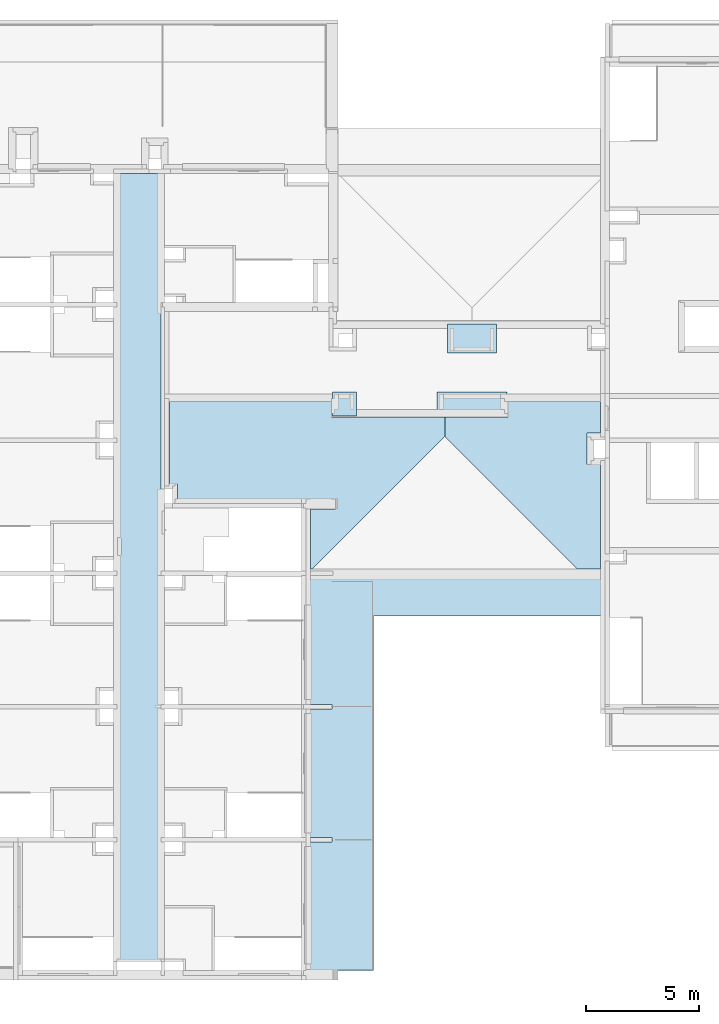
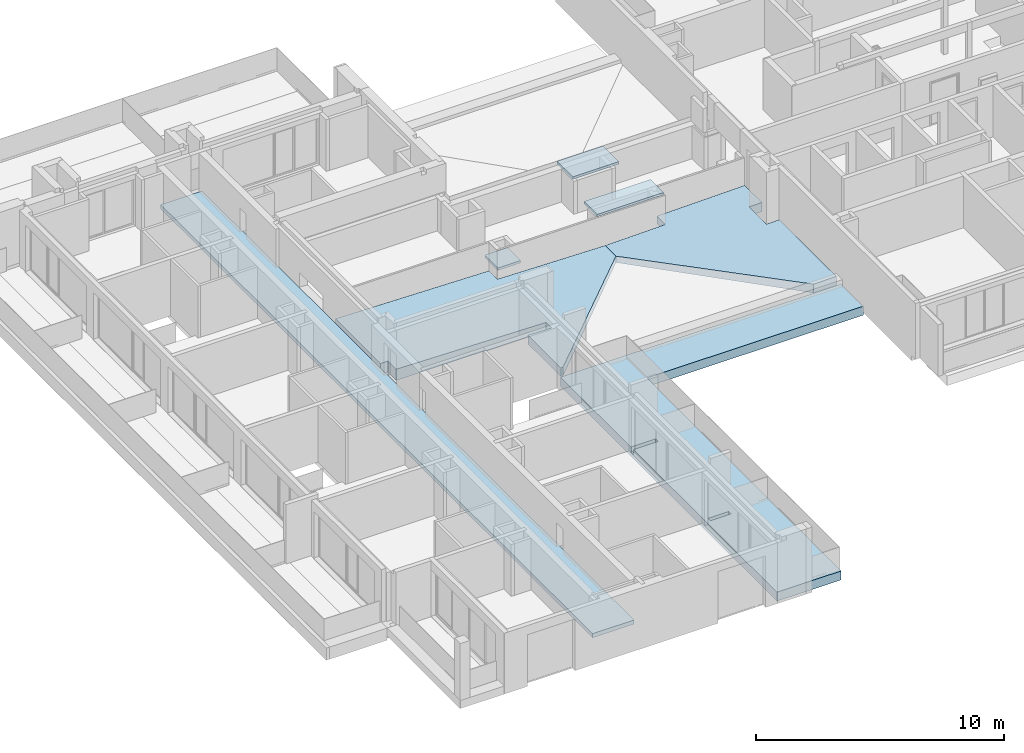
# One storey, part 3 of 30: 7 slabs.
"""IFC2X3 building model written with IfcOpenShell, lengths in millimetres."""

from ifc_helpers import new_model, entity, si_unit, converted_unit, derived_unit, money_unit, direction, frame, origin_with_axes, place, context, subcontext, project, spatial, faceted_brep, material, material_list, type_object, element, save


model = new_model("IFC2X3")

# Units and contexts
model_context = context("Model", 3, precision=0.01, world=origin_with_axes(), true_north=direction((0.34421633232, 0.938890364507)))
body_context = subcontext(model_context, "Body", "Model", "MODEL_VIEW")
ifc_project = project(units=[si_unit("LENGTHUNIT", "METRE", prefix="MILLI"), si_unit("AREAUNIT", "SQUARE_METRE"), si_unit("VOLUMEUNIT", "CUBIC_METRE"), converted_unit("PLANEANGLEUNIT", "DEGREE", entity("IfcPlaneAngleMeasure", 0.0174532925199), si_unit("PLANEANGLEUNIT", "RADIAN"), dimensions=[0, 0, 0, 0, 0, 0, 0]), si_unit("SOLIDANGLEUNIT", "STERADIAN"), money_unit("USD"), converted_unit("TIMEUNIT", "Year", entity("IfcTimeMeasure", 31556926.0), si_unit("TIMEUNIT", "SECOND"), dimensions=[0, 0, 1, 0, 0, 0, 0]), si_unit("MASSUNIT", "GRAM", prefix="KILO"), si_unit("THERMODYNAMICTEMPERATUREUNIT", "DEGREE_CELSIUS"), si_unit("LUMINOUSINTENSITYUNIT", "LUMEN"), si_unit("ENERGYUNIT", "JOULE", prefix="MEGA"), derived_unit("THERMALCONDUCTANCEUNIT", [(si_unit("POWERUNIT", "WATT"), 1), (si_unit("LENGTHUNIT", "METRE"), -1), (si_unit("THERMODYNAMICTEMPERATUREUNIT", "KELVIN"), -1)]), derived_unit("SPECIFICHEATCAPACITYUNIT", [(si_unit("ENERGYUNIT", "JOULE"), 1), (si_unit("MASSUNIT", "GRAM", prefix="KILO"), -1), (si_unit("THERMODYNAMICTEMPERATUREUNIT", "KELVIN"), -1)]), derived_unit("MASSDENSITYUNIT", [(si_unit("MASSUNIT", "GRAM", prefix="KILO"), 1), (si_unit("VOLUMEUNIT", "CUBIC_METRE"), -1)])], contexts=[model_context])

# Site, building, storey
site_placement = place(None, origin_with_axes())
site = spatial("IfcSite", under=ifc_project, at=site_placement, Name="USTRONIE MORSKIE", CompositionType="ELEMENT")
building_placement = place(site_placement, origin_with_axes())
building = spatial("IfcBuilding", under=site, at=building_placement, Name="Budynek", CompositionType="ELEMENT")
storey_placement = place(building_placement, frame((0.0, 0.0, 16000.0), z_axis=(0.0, 0.0, 1.0), x_axis=(1.0, 0.0, 0.0)))
storey = spatial("IfcBuildingStorey", under=building, at=storey_placement, Name="ANTRESOLA - KOND. TECHNICZNA", CompositionType="ELEMENT", Elevation=16000.0)

# Slabs
ifc_material_1 = material(Name="Beton konstrukcyjny B25")
slab_type_1 = type_object("IfcSlabType", Name="Beton konstrukcyjny B25 200", PredefinedType="FLOOR")
slab_1_placement = place(storey_placement, frame((357597.920919, 744601.199036, 720.0), z_axis=(0.0, 0.0, 1.0), x_axis=(1.0, 0.0, 0.0)))
element("IfcSlab", 1, at=slab_1_placement, inside=storey, type_object=slab_type_1, material=ifc_material_1, Name="P10", PredefinedType="FLOOR", context=body_context, shape_type="Brep", body=[
    faceted_brep([(0.0, 0.0, 0.0), (0.0, 0.0, -200.0), (-2.27373675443e-10, -34900.0, -200.0), (-2.27373675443e-10, -34900.0, 0.0), (1940.00266773, 0.0, 0.0), (1940.00266773, 0.0, -200.0), (1939.98184895, -34900.0, -200.0), (1939.98184895, -34900.0, 0.0)], [[[0, 1, 2, 3]], [[4, 5, 1, 0]], [[2, 1, 5, 6]], [[3, 2, 6, 7]], [[4, 0, 3, 7]], [[7, 6, 5, 4]]]),
])
ifc_material_2 = material(Name="Okładzina kamienna")
ifc_material_3 = material(Name="Żwir")
ifc_material_4 = material(Name="Membrana hydroizolacyjna")
ifc_material_5 = material(Name="Termoizolacja PIR")
ifc_material_list_1 = material_list([ifc_material_2, ifc_material_3, ifc_material_4, ifc_material_5, ifc_material_5])
slab_type_2 = type_object("IfcSlabType", Name="509-PS STROP DACH BALAST 560", PredefinedType="ROOF")
slab_2_placement = place(storey_placement, frame((372062.920783, 734916.200993, -400.0), z_axis=(0.0, 0.0, 1.0), x_axis=(-5.5051514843e-09, -1.0, 0.0)))
element("IfcSlab", 2, at=slab_2_placement, inside=storey, type_object=slab_type_2, material=ifc_material_list_1, Name="DA3", PredefinedType="ROOF", context=body_context, shape_type="Brep", body=[
    faceted_brep([(414.997181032, -12144.9998016, 803.011984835), (4055.00207076, -12144.9997816, 803.011984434), (4055.00206883, -11794.9997343, 796.011983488), (4715.00235535, -11794.9997306, 796.011983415), (4715.00234506, -9924.99988799, 758.611986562), (4715.00231682, -4794.96934567, 656.011375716), (5165.00224785, -4794.96934319, 656.011375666), (5165.00225391, -5894.99986507, 678.011986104), (7815.00198913, -5894.99985049, 678.011985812), (7815.00198861, -5799.99944305, 676.111977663), (1965.00248948, 49.999991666, 559.111988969), (1094.99912167, 50.0007137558, 559.111974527), (1094.99914934, -4975.01538582, 659.612296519), (414.997141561, -4975.01993256, 659.612387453), (414.997181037, -12144.9998016, 783.007985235), (4055.00207074, -12144.9997816, 783.007984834), (4055.00206881, -11794.9997343, 776.007983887), (4715.00235535, -11794.9997306, 776.007983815), (4715.00234506, -9925.399808, 738.615985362), (4715.00231683, -4794.96934566, 636.007376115), (5165.00224784, -4794.96934317, 636.007376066), (5165.00225391, -5894.99986509, 658.007986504), (7815.00198913, -5894.99985049, 658.007986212), (7815.00198859, -5799.99944304, 656.107978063), (1965.00248949, 49.9999916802, 539.107989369), (1094.99912168, 50.0007137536, 539.107974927), (1094.99914935, -4975.0153858, 639.608296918), (414.997141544, -4975.01993254, 639.608387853)], [[[0, 1, 2, 3, 4, 5, 6, 7, 8, 9, 10, 11, 12, 13]], [[0, 14, 15, 1]], [[1, 15, 16, 2]], [[2, 16, 17, 3]], [[3, 17, 18, 4]], [[4, 18, 19, 5]], [[5, 19, 20, 6]], [[6, 20, 21, 7]], [[7, 21, 22, 8]], [[8, 22, 23, 9]], [[9, 23, 24, 10]], [[10, 24, 25, 11]], [[11, 25, 26, 12]], [[12, 26, 27, 13]], [[13, 27, 14, 0]], [[14, 27, 26, 25, 24, 23, 22, 21, 20, 19, 18, 17, 16, 15]]]),
    faceted_brep([(414.997141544, -4975.01993254, 639.608387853), (414.99714148, -4975.01993249, 559.592389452), (414.997181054, -12144.9998017, 702.991986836), (414.997181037, -12144.9998016, 783.007985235), (1094.99914935, -4975.0153858, 639.608296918), (1094.9991494, -4975.01538575, 559.592298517), (1094.99912169, 50.0007137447, 459.091976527), (1965.0024895, 49.9999917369, 459.091990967), (7815.00198851, -5799.99944302, 576.091979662), (7815.0019891, -5894.99985049, 577.991987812), (5165.00225394, -5894.99986513, 577.991988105), (5165.0022478, -4794.96934311, 555.991377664), (4715.00231689, -4794.96934564, 555.991377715), (4715.00234509, -9926.99948805, 658.631980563), (4715.00235536, -11794.9997307, 695.991985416), (4055.00206875, -11794.9997342, 695.991985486), (4055.00207067, -12144.9997816, 702.991986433), (4055.00207074, -12144.9997816, 783.007984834), (4055.00206881, -11794.9997343, 776.007983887), (4715.00235535, -11794.9997306, 776.007983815), (4715.00234506, -9925.399808, 738.615985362), (4715.00231683, -4794.96934566, 636.007376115), (5165.00224784, -4794.96934317, 636.007376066), (5165.00225391, -5894.99986509, 658.007986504), (7815.00198913, -5894.99985049, 658.007986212), (7815.00198859, -5799.99944304, 656.107978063), (1965.00248949, 49.9999916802, 539.107989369), (1094.99912168, 50.0007137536, 539.107974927)], [[[0, 1, 2, 3]], [[4, 5, 1, 0]], [[2, 1, 5, 6, 7, 8, 9, 10, 11, 12, 13, 14, 15, 16]], [[3, 2, 16, 17]], [[3, 17, 18, 19, 20, 21, 22, 23, 24, 25, 26, 27, 4, 0]], [[27, 6, 5, 4]], [[26, 7, 6, 27]], [[25, 8, 7, 26]], [[24, 9, 8, 25]], [[23, 10, 9, 24]], [[22, 11, 10, 23]], [[21, 12, 11, 22]], [[20, 13, 12, 21]], [[19, 14, 13, 20]], [[18, 15, 14, 19]], [[17, 16, 15, 18]]]),
    faceted_brep([(414.99714148, -4975.01993249, 559.592389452), (414.997141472, -4975.01993248, 549.590389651), (414.997181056, -12144.9998017, 692.989987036), (414.997181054, -12144.9998017, 702.991986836), (1094.9991494, -4975.01538575, 559.592298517), (1094.9991494, -4975.01538574, 549.590298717), (1094.99912169, 50.0007137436, 449.089976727), (1965.0024895, 49.999991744, 449.089991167), (7815.0019885, -5799.99944302, 566.089979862), (7815.0019891, -5894.99985049, 567.989988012), (5165.00225394, -5894.99986514, 567.989988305), (5165.00224779, -4794.9693431, 545.989377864), (4715.00231689, -4794.96934564, 545.989377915), (4715.00234509, -9927.19944806, 648.633979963), (4715.00235536, -11794.9997307, 685.989985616), (4055.00206875, -11794.9997342, 685.989985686), (4055.00207066, -12144.9997816, 692.989986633), (4055.00207067, -12144.9997816, 702.991986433), (4055.00206875, -11794.9997342, 695.991985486), (4715.00235536, -11794.9997307, 695.991985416), (4715.00234509, -9926.99948805, 658.631980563), (4715.00231689, -4794.96934564, 555.991377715), (5165.0022478, -4794.96934311, 555.991377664), (5165.00225394, -5894.99986513, 577.991988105), (7815.0019891, -5894.99985049, 577.991987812), (7815.00198851, -5799.99944302, 576.091979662), (1965.0024895, 49.9999917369, 459.091990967), (1094.99912169, 50.0007137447, 459.091976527)], [[[0, 1, 2, 3]], [[4, 5, 1, 0]], [[2, 1, 5, 6, 7, 8, 9, 10, 11, 12, 13, 14, 15, 16]], [[3, 2, 16, 17]], [[3, 17, 18, 19, 20, 21, 22, 23, 24, 25, 26, 27, 4, 0]], [[27, 6, 5, 4]], [[26, 7, 6, 27]], [[25, 8, 7, 26]], [[24, 9, 8, 25]], [[23, 10, 9, 24]], [[22, 11, 10, 23]], [[21, 12, 11, 22]], [[20, 13, 12, 21]], [[19, 14, 13, 20]], [[18, 15, 14, 19]], [[17, 16, 15, 18]]]),
    faceted_brep([(414.997141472, -4975.01993248, 549.590389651), (414.997141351, -4975.01993238, 399.560392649), (414.99718109, -12144.9998018, 542.959990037), (414.997181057, -12144.9998017, 692.989987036), (1094.9991494, -4975.01538574, 549.590298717), (1094.99914949, -4975.01538564, 399.560301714), (1094.9991217, 50.0007137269, 299.059979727), (1965.00248952, 49.9999918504, 299.059994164), (7815.00198834, -5799.99944297, 416.059982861), (7815.00198906, -5894.9998505, 417.959991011), (5165.00225398, -5894.99986523, 417.959991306), (5165.00224771, -4794.96934298, 395.959380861), (4715.002317, -4794.96934561, 395.959380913), (4715.00234513, -9930.19884815, 498.663970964), (4715.00235537, -11794.9997308, 535.959988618), (4055.00206863, -11794.9997341, 535.959988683), (4055.00207053, -12144.9997816, 542.959989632), (4055.00207066, -12144.9997816, 692.989986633), (4055.00206875, -11794.9997342, 685.989985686), (4715.00235536, -11794.9997307, 685.989985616), (4715.00234509, -9927.19944806, 648.633979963), (4715.00231689, -4794.96934564, 545.989377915), (5165.00224779, -4794.9693431, 545.989377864), (5165.00225394, -5894.99986514, 567.989988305), (7815.0019891, -5894.99985049, 567.989988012), (7815.0019885, -5799.99944302, 566.089979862), (1965.0024895, 49.999991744, 449.089991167), (1094.99912169, 50.0007137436, 449.089976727)], [[[0, 1, 2, 3]], [[4, 5, 1, 0]], [[2, 1, 5, 6, 7, 8, 9, 10, 11, 12, 13, 14, 15, 16]], [[3, 2, 16, 17]], [[3, 17, 18, 19, 20, 21, 22, 23, 24, 25, 26, 27, 4, 0]], [[27, 6, 5, 4]], [[26, 7, 6, 27]], [[25, 8, 7, 26]], [[24, 9, 8, 25]], [[23, 10, 9, 24]], [[22, 11, 10, 23]], [[21, 12, 11, 22]], [[20, 13, 12, 21]], [[19, 14, 13, 20]], [[18, 15, 14, 19]], [[17, 16, 15, 18]]]),
    faceted_brep([(1965.00248953, 49.9999918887, 245.0), (1094.99912171, 50.000713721, 245.0), (1094.9991217, 50.000713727, 299.059979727), (1965.00248952, 49.9999918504, 299.059994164), (1094.99914959, -4975.01538553, 245.0), (7815.00198817, -5799.99944292, 245.0), (7815.001989, -5894.99985051, 245.0), (5165.00225403, -5894.99986533, 245.0), (5165.00224763, -4794.96934286, 245.0), (5115.00240746, -4794.96934319, 245.0), (5115.00240686, -4684.96269052, 245.0), (4915.00245454, -4684.96269162, 245.0), (4915.00245514, -4794.96934436, 245.0), (4715.00231711, -4794.96934557, 245.0), (4715.0023554, -11794.9997311, 245.0), (4055.00206841, -11794.9997339, 245.0), (4055.00207027, -12144.9997815, 245.0), (414.997181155, -12144.999802, 245.0), (414.997141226, -4975.01993227, 245.0), (1094.99914949, -4975.01538564, 399.560301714), (414.997141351, -4975.01993238, 399.560392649), (414.997181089, -12144.9998018, 542.959990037), (4055.00207053, -12144.9997816, 542.959989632), (4055.00206863, -11794.9997341, 535.959988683), (4715.00235537, -11794.9997308, 535.959988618), (4715.002317, -4794.96934561, 395.959380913), (5165.00224771, -4794.96934298, 395.959380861), (5165.00225398, -5894.99986523, 417.959991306), (7815.00198906, -5894.9998505, 417.959991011), (7815.00198834, -5799.99944297, 416.059982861), (4915.00245514, -4794.96934437, 240.0), (5115.00240746, -4794.96934316, 240.0), (5115.00240686, -4684.96269052, 240.0), (4915.00245454, -4684.96269162, 240.0)], [[[0, 1, 2, 3]], [[4, 1, 0, 5, 6, 7, 8, 9, 10, 11, 12, 13, 14, 15, 16, 17, 18]], [[1, 4, 19, 2]], [[20, 21, 22, 23, 24, 25, 26, 27, 28, 29, 3, 2, 19]], [[5, 0, 3, 29]], [[6, 5, 29, 28]], [[7, 6, 28, 27]], [[8, 7, 27, 26]], [[9, 8, 26, 25, 13, 12, 30, 31]], [[31, 32, 10, 9]], [[32, 33, 11, 10]], [[33, 30, 12, 11]], [[14, 13, 25, 24]], [[15, 14, 24, 23]], [[16, 15, 23, 22]], [[17, 16, 22, 21]], [[18, 17, 21, 20]], [[4, 18, 20, 19]], [[32, 31, 30, 33]]]),
])
slab_3_placement = place(storey_placement, frame((372162.9208, 734446.318653, -400.0), z_axis=(0.0, 0.0, 1.0), x_axis=(-5.5051514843e-09, 1.0, 0.0)))
element("IfcSlab", 3, at=slab_3_placement, inside=storey, type_object=slab_type_2, material=ifc_material_list_1, Name="DA3", PredefinedType="ROOF", context=body_context, shape_type="Brep", body=[
    faceted_brep([(-2735.11955798, -6855.00986289, 697.21218606), (-2735.11955468, -6255.00358239, 685.21206045), (-1335.11919354, -6255.0035901, 685.212060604), (-1335.11919684, -6855.00011159, 697.211991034), (54.8850769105, -6855.00011924, 697.211991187), (54.8850994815, -2755.00011924, 615.211991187), (-625.116797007, -2755.0001155, 615.211991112), (-625.116781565, 50.000134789, 559.111986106), (-1495.11958302, 50.0001395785, 559.111986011), (-7345.1196485, -5799.99951484, 676.111979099), (-7345.11965431, -6855.00983751, 697.212185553), (-2735.11955799, -6855.00986291, 677.20818646), (-2735.11955468, -6255.00358239, 665.20806085), (-1335.11919355, -6255.00359009, 665.208061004), (-1335.11919683, -6855.00011158, 677.207991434), (54.8850769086, -6855.00011923, 677.207991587), (54.8850994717, -2755.00011925, 595.207991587), (-625.116796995, -2755.00011551, 595.207991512), (-625.116781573, 50.0001347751, 539.107986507), (-1495.11958303, 50.000139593, 539.10798641), (-7345.11964849, -5799.99951484, 656.107979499), (-7345.11965432, -6855.0098375, 677.208185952)], [[[0, 1, 2, 3, 4, 5, 6, 7, 8, 9, 10]], [[0, 11, 12, 1]], [[1, 12, 13, 2]], [[2, 13, 14, 3]], [[3, 14, 15, 4]], [[4, 15, 16, 5]], [[5, 16, 17, 6]], [[6, 17, 18, 7]], [[7, 18, 19, 8]], [[8, 19, 20, 9]], [[9, 20, 21, 10]], [[10, 21, 11, 0]], [[11, 21, 20, 19, 18, 17, 16, 15, 14, 13, 12]]]),
    faceted_brep([(-7345.11965432, -6855.0098375, 677.208185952), (-7345.11965436, -6855.00983746, 597.192187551), (-2735.11955805, -6855.00986296, 597.192188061), (-2735.11955799, -6855.00986291, 677.20818646), (-7345.11964849, -5799.99951484, 656.107979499), (-7345.11964843, -5799.99951483, 576.091981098), (-1495.11958308, 50.0001396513, 459.091988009), (-625.116781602, 50.0001347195, 459.091988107), (-625.116796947, -2755.00011556, 515.191993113), (54.8850994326, -2755.0001193, 515.191993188), (54.8850769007, -6855.00011919, 597.191993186), (-1335.11919681, -6855.00011157, 597.191993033), (-1335.11919359, -6255.00359004, 585.192062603), (-2735.11955467, -6255.00358238, 585.19206245), (-2735.11955468, -6255.00358239, 665.20806085), (-1335.11919355, -6255.00359009, 665.208061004), (-1335.11919683, -6855.00011158, 677.207991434), (54.8850769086, -6855.00011923, 677.207991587), (54.8850994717, -2755.00011925, 595.207991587), (-625.116796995, -2755.00011551, 595.207991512), (-625.116781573, 50.0001347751, 539.107986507), (-1495.11958303, 50.000139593, 539.10798641)], [[[0, 1, 2, 3]], [[4, 5, 1, 0]], [[2, 1, 5, 6, 7, 8, 9, 10, 11, 12, 13]], [[3, 2, 13, 14]], [[3, 14, 15, 16, 17, 18, 19, 20, 21, 4, 0]], [[21, 6, 5, 4]], [[20, 7, 6, 21]], [[19, 8, 7, 20]], [[18, 9, 8, 19]], [[17, 10, 9, 18]], [[16, 11, 10, 17]], [[15, 12, 11, 16]], [[14, 13, 12, 15]]]),
    faceted_brep([(-7345.11965436, -6855.00983746, 597.192187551), (-7345.11965437, -6855.00983745, 587.190187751), (-2735.11955806, -6855.00986297, 587.190188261), (-2735.11955805, -6855.00986296, 597.192188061), (-7345.11964843, -5799.99951483, 576.091981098), (-7345.11964842, -5799.99951482, 566.089981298), (-1495.11958309, 50.0001396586, 449.089988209), (-625.116781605, 50.0001347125, 449.089988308), (-625.116796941, -2755.00011556, 505.189993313), (54.8850994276, -2755.0001193, 505.189993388), (54.8850768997, -6855.00011918, 587.189993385), (-1335.1191968, -6855.00011157, 587.189993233), (-1335.1191936, -6255.00359004, 575.190062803), (-2735.11955467, -6255.00358238, 575.190062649), (-2735.11955467, -6255.00358238, 585.19206245), (-1335.11919359, -6255.00359004, 585.192062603), (-1335.11919681, -6855.00011157, 597.191993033), (54.8850769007, -6855.00011919, 597.191993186), (54.8850994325, -2755.0001193, 515.191993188), (-625.116796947, -2755.00011556, 515.191993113), (-625.116781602, 50.0001347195, 459.091988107), (-1495.11958308, 50.0001396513, 459.091988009)], [[[0, 1, 2, 3]], [[4, 5, 1, 0]], [[2, 1, 5, 6, 7, 8, 9, 10, 11, 12, 13]], [[3, 2, 13, 14]], [[3, 14, 15, 16, 17, 18, 19, 20, 21, 4, 0]], [[21, 6, 5, 4]], [[20, 7, 6, 21]], [[19, 8, 7, 20]], [[18, 9, 8, 19]], [[17, 10, 9, 18]], [[16, 11, 10, 17]], [[15, 12, 11, 16]], [[14, 13, 12, 15]]]),
    faceted_brep([(-7345.11965437, -6855.00983745, 587.190187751), (-7345.11965446, -6855.00983737, 437.160190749), (-2735.11955816, -6855.00986307, 437.160191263), (-2735.11955806, -6855.00986297, 587.190188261), (-7345.11964842, -5799.99951482, 566.089981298), (-7345.11964832, -5799.9995148, 416.059984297), (-1495.11958318, 50.0001397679, 299.059991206), (-625.116781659, 50.0001346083, 299.059991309), (-625.11679685, -2755.00011565, 355.159996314), (54.8850993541, -2755.00011939, 355.159996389), (54.8850768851, -6855.0001191, 437.159996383), (-1335.11919675, -6855.00011154, 437.159996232), (-1335.11919369, -6255.00358995, 425.1600658), (-2735.11955466, -6255.00358237, 425.160065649), (-2735.11955467, -6255.00358238, 575.190062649), (-1335.1191936, -6255.00359004, 575.190062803), (-1335.1191968, -6855.00011157, 587.189993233), (54.8850768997, -6855.00011918, 587.189993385), (54.8850994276, -2755.0001193, 505.189993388), (-625.116796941, -2755.00011556, 505.189993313), (-625.116781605, 50.0001347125, 449.089988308), (-1495.11958309, 50.0001396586, 449.089988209)], [[[0, 1, 2, 3]], [[4, 5, 1, 0]], [[2, 1, 5, 6, 7, 8, 9, 10, 11, 12, 13]], [[3, 2, 13, 14]], [[3, 14, 15, 16, 17, 18, 19, 20, 21, 4, 0]], [[21, 6, 5, 4]], [[20, 7, 6, 21]], [[19, 8, 7, 20]], [[18, 9, 8, 19]], [[17, 10, 9, 18]], [[16, 11, 10, 17]], [[15, 12, 11, 16]], [[14, 13, 12, 15]]]),
    faceted_brep([(-1335.11919669, -6855.00011151, 245.0), (54.8850768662, -6855.000119, 245.0), (54.8850768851, -6855.0001191, 437.159996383), (-1335.11919675, -6855.00011154, 437.159996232), (54.8850993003, -2755.00011945, 245.0), (-1335.11919379, -6255.00358985, 245.0), (-2735.11955465, -6255.00358235, 245.0), (-2735.11955829, -6855.00986321, 245.0), (-7345.11965457, -6855.00983727, 245.0), (-7345.1196482, -5799.99951477, 245.0), (-1495.11958321, 50.0001398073, 245.0), (-625.116781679, 50.0001345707, 245.0), (-625.116796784, -2755.00011572, 245.0), (54.8850993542, -2755.00011939, 355.159996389), (-7345.11965446, -6855.00983737, 437.160190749), (-2735.11955816, -6855.00986307, 437.160191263), (-2735.11955466, -6255.00358237, 425.160065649), (-1335.11919369, -6255.00358995, 425.1600658), (-625.11679685, -2755.00011565, 355.159996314), (-625.116781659, 50.0001346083, 299.059991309), (-1495.11958318, 50.0001397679, 299.059991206), (-7345.11964832, -5799.9995148, 416.059984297)], [[[0, 1, 2, 3]], [[4, 1, 0, 5, 6, 7, 8, 9, 10, 11, 12]], [[1, 4, 13, 2]], [[14, 15, 16, 17, 3, 2, 13, 18, 19, 20, 21]], [[5, 0, 3, 17]], [[6, 5, 17, 16]], [[7, 6, 16, 15]], [[8, 7, 15, 14]], [[9, 8, 14, 21]], [[10, 9, 21, 20]], [[11, 10, 20, 19]], [[12, 11, 19, 18]], [[4, 12, 18, 13]]]),
])
slab_type_3 = type_object("IfcSlabType", Name="Beton konstrukcyjny B25 120", PredefinedType="FLOOR")
slab_4_placement = place(storey_placement, frame((367137.897691, 734931.199036, 760.000001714), z_axis=(0.0, 0.0, 1.0), x_axis=(1.0, 0.0, 0.0)))
element("IfcSlab", 4, at=slab_4_placement, inside=storey, type_object=slab_type_3, material=ifc_material_1, Name="P3", PredefinedType="FLOOR", context=body_context, shape_type="Brep", body=[
    faceted_brep([(0.0, 0.0, 0.0), (0.0, 0.0, -120.0), (0.00630114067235, -1059.99841575, -120.0), (0.00630114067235, -1059.99841575, 0.0), (1059.9841905, 0.0, 0.0), (1059.9841905, 0.0, -120.0), (1059.99049165, -1059.99841575, -120.0), (1059.99049165, -1059.99841575, 0.0)], [[[0, 1, 2, 3]], [[4, 5, 1, 0]], [[2, 1, 5, 6]], [[3, 2, 6, 7]], [[4, 0, 3, 7]], [[7, 6, 5, 4]]]),
])
slab_5_placement = place(storey_placement, frame((374867.920919, 734931.200597, 1780.00000171), z_axis=(0.0, 0.0, 1.0), x_axis=(1.0, 0.0, 0.0)))
element("IfcSlab", 5, at=slab_5_placement, inside=storey, type_object=slab_type_3, material=ifc_material_1, Name="P3", PredefinedType="FLOOR", context=body_context, shape_type="Brep", body=[
    faceted_brep([(0.0, 0.0, 0.0), (0.0, 0.0, -120.0), (-3100.0, 0.0, -120.0), (-3100.0, 0.0, 0.0), (0.0, -1059.99997673, 0.0), (0.0, -1059.99997673, -120.0), (-3100.0, -1059.99997673, -120.0), (-3100.0, -1059.99997673, 0.0)], [[[0, 1, 2, 3]], [[4, 5, 1, 0]], [[2, 1, 5, 6]], [[3, 2, 6, 7]], [[4, 0, 3, 7]], [[7, 6, 5, 4]]]),
])
slab_6_placement = place(storey_placement, frame((374397.933406, 737931.199937, 1780.00000171), z_axis=(0.0, 0.0, 1.0), x_axis=(1.0, 0.0, 0.0)))
element("IfcSlab", 6, at=slab_6_placement, inside=storey, type_object=slab_type_3, material=ifc_material_1, Name="P3", PredefinedType="FLOOR", context=body_context, shape_type="Brep", body=[
    faceted_brep([(0.0, 0.0, 0.0), (0.0, 0.0, -120.0), (-2160.02471788, 0.0, -120.0), (-2160.02471788, 0.0, 0.0), (0.0, -1280.00090117, 0.0), (0.0, -1280.00090117, -120.0), (-2160.02471788, -1280.00090117, -120.0), (-2160.02471788, -1280.00090117, 0.0)], [[[0, 1, 2, 3]], [[4, 5, 1, 0]], [[2, 1, 5, 6]], [[3, 2, 6, 7]], [[4, 0, 3, 7]], [[7, 6, 5, 4]]]),
])
ifc_material_6 = material(Name="Płytki okładzinowe")
ifc_material_7 = material(Name="Wylewka")
ifc_material_8 = material(Name="Płyty styropianowe twarde")
ifc_material_9 = material(Name="Membrana przeciwwilgociowa")
ifc_material_list_2 = material_list([ifc_material_6, ifc_material_7, ifc_material_8, ifc_material_9, ifc_material_1])
slab_type_4 = type_object("IfcSlabType", Name="Tarasy kond.5 440", PredefinedType="FLOOR")
slab_7_placement = place(storey_placement, frame((367367.920567, 726801.199036, 80.0000017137), z_axis=(0.0, 0.0, 1.0), x_axis=(1.0, 0.0, 0.0)))
element("IfcSlab", 7, at=slab_7_placement, inside=storey, type_object=slab_type_4, material=ifc_material_list_2, Name="P9", PredefinedType="FLOOR", context=body_context, shape_type="Brep", body=[
    faceted_brep([(-249.999603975, -5700.0, -25.0), (-1399.99973923, -5700.0, -25.0), (-1399.99973923, 0.0, -25.0), (11700.000447, 0.0, -25.0), (11700.0001863, -1800.00067055, -25.0), (1600.00372529, -1800.00067055, -25.0), (1600.03684316, -17499.9937415, -25.0), (0.0370294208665, -17500.0, -25.0), (-1399.99973923, -17500.0, -25.0), (-1399.99973923, -5900.0, -25.0), (-249.999603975, -5900.0, -25.0), (-1199.99964836, -11800.0, -25.0), (-249.96325655, -11800.0, -25.0), (-249.96325655, -11600.0, -25.0), (-1199.99964836, -11600.0, -25.0), (-249.999603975, -5700.0, 0.0), (-1399.99973923, -5700.0, 0.0), (-1399.99973923, 0.0, 0.0), (11700.000447, 0.0, 0.0), (11700.0001863, -1800.00067055, 0.0), (1600.00372529, -1800.00067055, 0.0), (1600.03684316, -17499.9937415, 0.0), (0.0370294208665, -17500.0, 0.0), (-1399.99973923, -17500.0, 0.0), (-1399.99973923, -5900.0, 0.0), (-249.999603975, -5900.0, 0.0), (-1199.99964836, -11800.0, 0.0), (-249.96325655, -11800.0, 0.0), (-249.96325655, -11600.0, 0.0), (-1199.99964836, -11600.0, 0.0)], [[[0, 1, 2, 3, 4, 5, 6, 7, 8, 9, 10], [11, 12, 13, 14]], [[15, 16, 1, 0]], [[1, 16, 17, 2]], [[3, 2, 17, 18]], [[4, 3, 18, 19]], [[5, 4, 19, 20]], [[6, 5, 20, 21]], [[7, 6, 21, 22]], [[8, 7, 22, 23]], [[24, 9, 8, 23]], [[24, 25, 10, 9]], [[25, 15, 0, 10]], [[26, 27, 12, 11]], [[27, 28, 13, 12]], [[28, 29, 14, 13]], [[29, 26, 11, 14]], [[25, 24, 23, 22, 21, 20, 19, 18, 17, 16, 15], [26, 29, 28, 27]]]),
    faceted_brep([(-249.999603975, -5700.0, -85.0), (-1399.99973923, -5700.0, -85.0), (-1399.99973923, 0.0, -85.0), (11700.000447, 0.0, -85.0), (11700.0001863, -1800.00067055, -85.0), (1600.00372529, -1800.00067055, -85.0), (1600.03684316, -17499.9937415, -85.0), (0.0370294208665, -17500.0, -85.0), (-1399.99973923, -17500.0, -85.0), (-1399.99973923, -5900.0, -85.0), (-249.999603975, -5900.0, -85.0), (-1199.99964836, -11800.0, -85.0), (-249.96325655, -11800.0, -85.0), (-249.96325655, -11600.0, -85.0), (-1199.99964836, -11600.0, -85.0), (-249.999603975, -5700.0, -25.0), (-1399.99973923, -5700.0, -25.0), (-1399.99973923, 0.0, -25.0), (11700.000447, 0.0, -25.0), (11700.0001863, -1800.00067055, -25.0), (1600.00372529, -1800.00067055, -25.0), (1600.03684316, -17499.9937415, -25.0), (0.0370294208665, -17500.0, -25.0), (-1399.99973923, -17500.0, -25.0), (-1399.99973923, -5900.0, -25.0), (-249.999603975, -5900.0, -25.0), (-1199.99964836, -11800.0, -25.0), (-249.96325655, -11800.0, -25.0), (-249.96325655, -11600.0, -25.0), (-1199.99964836, -11600.0, -25.0)], [[[0, 1, 2, 3, 4, 5, 6, 7, 8, 9, 10], [11, 12, 13, 14]], [[15, 16, 1, 0]], [[1, 16, 17, 2]], [[3, 2, 17, 18]], [[4, 3, 18, 19]], [[5, 4, 19, 20]], [[6, 5, 20, 21]], [[7, 6, 21, 22]], [[8, 7, 22, 23]], [[24, 9, 8, 23]], [[24, 25, 10, 9]], [[25, 15, 0, 10]], [[26, 27, 12, 11]], [[27, 28, 13, 12]], [[28, 29, 14, 13]], [[29, 26, 11, 14]], [[25, 24, 23, 22, 21, 20, 19, 18, 17, 16, 15], [26, 29, 28, 27]]]),
    faceted_brep([(-249.999603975, -5700.0, -235.0), (-1399.99973923, -5700.0, -235.0), (-1399.99973923, 0.0, -235.0), (11700.000447, 0.0, -235.0), (11700.0001863, -1800.00067055, -235.0), (1600.00372529, -1800.00067055, -235.0), (1600.03684316, -17499.9937415, -235.0), (0.0370294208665, -17500.0, -235.0), (-1399.99973923, -17500.0, -235.0), (-1399.99973923, -5900.0, -235.0), (-249.999603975, -5900.0, -235.0), (-1199.99964836, -11800.0, -235.0), (-249.96325655, -11800.0, -235.0), (-249.96325655, -11600.0, -235.0), (-1199.99964836, -11600.0, -235.0), (-249.999603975, -5700.0, -85.0), (-1399.99973923, -5700.0, -85.0), (-1399.99973923, 0.0, -85.0), (11700.000447, 0.0, -85.0), (11700.0001863, -1800.00067055, -85.0), (1600.00372529, -1800.00067055, -85.0), (1600.03684316, -17499.9937415, -85.0), (0.0370294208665, -17500.0, -85.0), (-1399.99973923, -17500.0, -85.0), (-1399.99973923, -5900.0, -85.0), (-249.999603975, -5900.0, -85.0), (-1199.99964836, -11800.0, -85.0), (-249.96325655, -11800.0, -85.0), (-249.96325655, -11600.0, -85.0), (-1199.99964836, -11600.0, -85.0)], [[[0, 1, 2, 3, 4, 5, 6, 7, 8, 9, 10], [11, 12, 13, 14]], [[15, 16, 1, 0]], [[1, 16, 17, 2]], [[3, 2, 17, 18]], [[4, 3, 18, 19]], [[5, 4, 19, 20]], [[6, 5, 20, 21]], [[7, 6, 21, 22]], [[8, 7, 22, 23]], [[24, 9, 8, 23]], [[24, 25, 10, 9]], [[25, 15, 0, 10]], [[26, 27, 12, 11]], [[27, 28, 13, 12]], [[28, 29, 14, 13]], [[29, 26, 11, 14]], [[25, 24, 23, 22, 21, 20, 19, 18, 17, 16, 15], [26, 29, 28, 27]]]),
    faceted_brep([(-249.999603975, -5700.0, -240.0), (-1399.99973923, -5700.0, -240.0), (-1399.99973923, 0.0, -240.0), (11700.000447, 0.0, -240.0), (11700.0001863, -1800.00067055, -240.0), (1600.00372529, -1800.00067055, -240.0), (1600.03684316, -17499.9937415, -240.0), (0.0370294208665, -17500.0, -240.0), (-1399.99973923, -17500.0, -240.0), (-1399.99973923, -5900.0, -240.0), (-249.999603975, -5900.0, -240.0), (-1199.99964836, -11800.0, -240.0), (-249.96325655, -11800.0, -240.0), (-249.96325655, -11600.0, -240.0), (-1199.99964836, -11600.0, -240.0), (-249.999603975, -5700.0, -235.0), (-1399.99973923, -5700.0, -235.0), (-1399.99973923, 0.0, -235.0), (11700.000447, 0.0, -235.0), (11700.0001863, -1800.00067055, -235.0), (1600.00372529, -1800.00067055, -235.0), (1600.03684316, -17499.9937415, -235.0), (0.0370294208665, -17500.0, -235.0), (-1399.99973923, -17500.0, -235.0), (-1399.99973923, -5900.0, -235.0), (-249.999603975, -5900.0, -235.0), (-1199.99964836, -11800.0, -235.0), (-249.96325655, -11800.0, -235.0), (-249.96325655, -11600.0, -235.0), (-1199.99964836, -11600.0, -235.0)], [[[0, 1, 2, 3, 4, 5, 6, 7, 8, 9, 10], [11, 12, 13, 14]], [[15, 16, 1, 0]], [[1, 16, 17, 2]], [[3, 2, 17, 18]], [[4, 3, 18, 19]], [[5, 4, 19, 20]], [[6, 5, 20, 21]], [[7, 6, 21, 22]], [[8, 7, 22, 23]], [[24, 9, 8, 23]], [[24, 25, 10, 9]], [[25, 15, 0, 10]], [[26, 27, 12, 11]], [[27, 28, 13, 12]], [[28, 29, 14, 13]], [[29, 26, 11, 14]], [[25, 24, 23, 22, 21, 20, 19, 18, 17, 16, 15], [26, 29, 28, 27]]]),
    faceted_brep([(-1399.99973923, 0.0, -240.0), (-1399.99973923, 0.0, -440.0), (-1399.99973923, -17500.0, -440.0), (-1399.99973923, -17500.0, -240.0), (11700.000447, 0.0, -240.0), (11700.000447, 0.0, -440.0), (11700.0001863, -1800.00067055, -440.0), (1600.00372529, -1800.00067055, -440.0), (1600.03684316, -17499.9937415, -440.0), (0.0370294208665, -17500.0, -440.0), (0.0370294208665, -17500.0, -240.0), (1600.03684316, -17499.9937415, -240.0), (1600.00372529, -1800.00067055, -240.0), (11700.0001863, -1800.00067055, -240.0)], [[[0, 1, 2, 3]], [[4, 5, 1, 0]], [[1, 5, 6, 7, 8, 9, 2]], [[3, 2, 9, 10]], [[4, 0, 3, 10, 11, 12, 13]], [[13, 6, 5, 4]], [[12, 7, 6, 13]], [[11, 8, 7, 12]], [[10, 9, 8, 11]]]),
])

save(model, "model.ifc")
